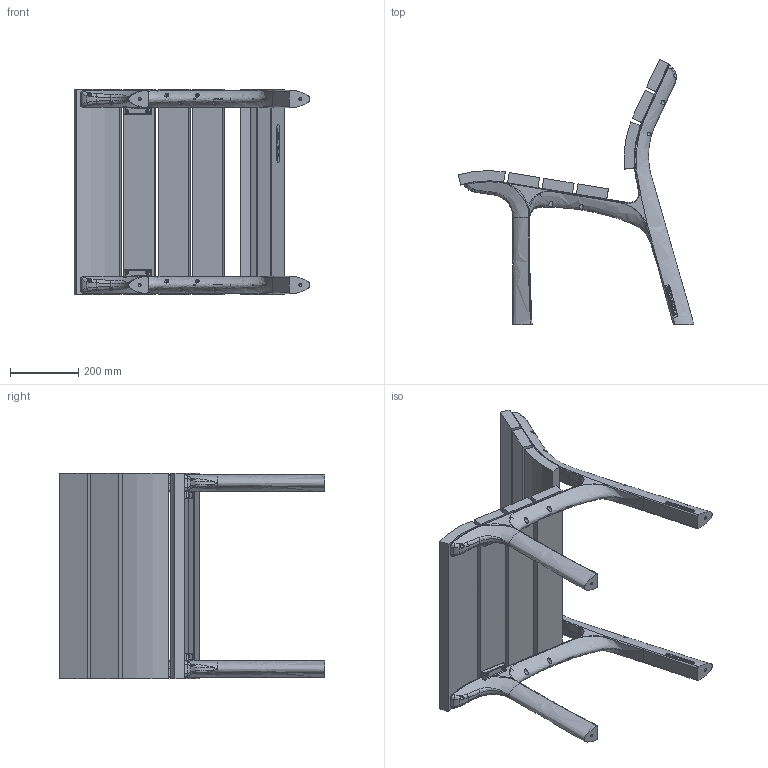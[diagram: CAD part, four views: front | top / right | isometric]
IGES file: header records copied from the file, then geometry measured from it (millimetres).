
Start section: SolidWorks IGES file using analytic representation for surfaces
Global section: file name: C:\SANTACOLE_PDM\Proyectos Catálogo\PROD-P13-022 -- NEOROMANTICO CLÁSICO\6_Técnico comercial\3D WEB\Banco NeoRomántco Clásico 0,60m.IGS; native system: SolidWorks 2013; preprocessor: SolidWorks 2013; author: jordi.munoz; date: 150409.154319; units: millimetre
Bounding box: 689.92 x 775.55 x 600 mm (x, y, z)
Volume: 19038342.1 mm3; surface area: 1767586.2 mm2
Topology: 39 solids, 39 shells, 5239 faces, 14645 edges, 9511 vertices
Faces by surface type: plane 2348, revolution 1831, bspline 1060
